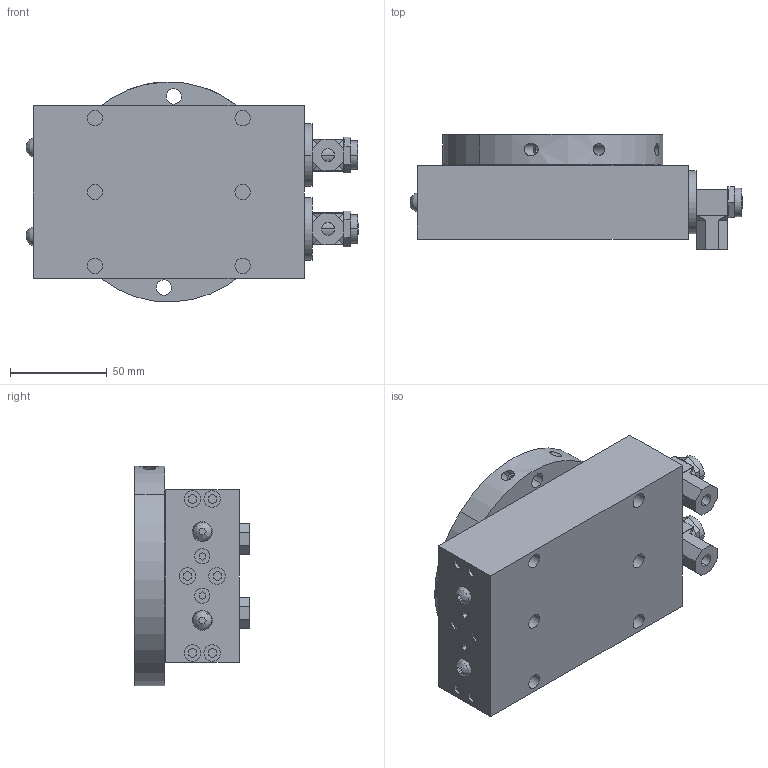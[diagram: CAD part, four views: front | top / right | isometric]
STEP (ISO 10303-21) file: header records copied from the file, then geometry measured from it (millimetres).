
FILE_DESCRIPTION (( 'STEP AP203' ), '1' );
FILE_NAME ('AGR-4 HOME POSITION in MM.STEP', '2014-11-05T19:13:37', ( 'setup' ), ( '' ), 'SwSTEP 2.0', 'SolidWorks 2013', '' );
FILE_SCHEMA (( 'CONFIG_CONTROL_DESIGN' ));
Length unit declared in the file: millimetre
Products named in the file (21): AGR-4 180 BODY; AGR-4 NUT7; AGR-4 FLOW SQREW1; AGR-4 ABSR14; AGR-4 NUT8; AGR-4 FLOW SQREW2; AGR-4 RND NUT1; AGR-4 SQREW2; AGR-4 NUT 4; AGR-4 NUT1; AGR-4 HOME POSITION in MM; AGR-4 FLOW SQREW; AGR-4 NUT2; AGR-4 ABSR13; AGR-4 CENTER; AGR-4 NUT 5; AGR-4 FLOW; AGR-4 SQREW1; AGR-4 ROTARY PLATFORM; AGR-4 NUT 6; AGR-4 NUT3
Assembly tree (21 placements, depth 2):
  AGR-4 HOME POSITION in MM
    AGR-4 180 BODY
    AGR-4 ABSR14
    AGR-4 RND NUT1  x2
    AGR-4 NUT1
    AGR-4 NUT2
    AGR-4 CENTER
    AGR-4 FLOW
    AGR-4 ROTARY PLATFORM
    AGR-4 NUT3
    AGR-4 FLOW SQREW1
    AGR-4 FLOW SQREW2
    AGR-4 NUT 4
    AGR-4 FLOW SQREW
    AGR-4 ABSR13
    AGR-4 NUT 5
    AGR-4 SQREW1
    AGR-4 NUT 6
    AGR-4 NUT7
    AGR-4 NUT8
    AGR-4 SQREW2
Bounding box: 171.29 x 59.2 x 113.47 mm (x, y, z)
Volume: 633497.4 mm3; surface area: 98361.4 mm2
Topology: 21 solids, 21 shells, 450 faces, 997 edges, 648 vertices
Faces by surface type: plane 279, cylinder 165, cone 4, bspline 2
Entity records: 15147 total; most frequent: CARTESIAN_POINT 2831, DIRECTION 2183, ORIENTED_EDGE 1942, EDGE_CURVE 971, AXIS2_PLACEMENT_3D 786, VERTEX_POINT 630, VECTOR 611, LINE 611
